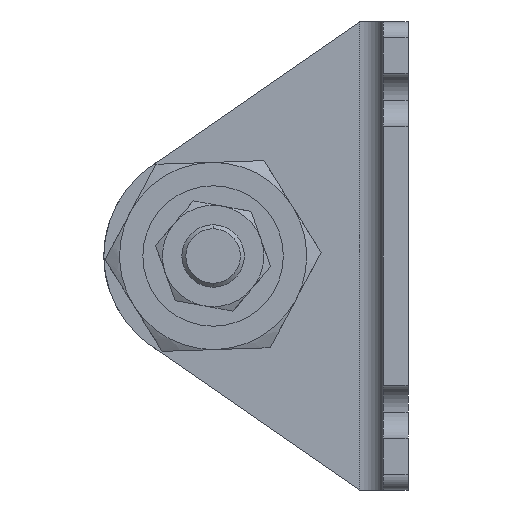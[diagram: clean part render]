
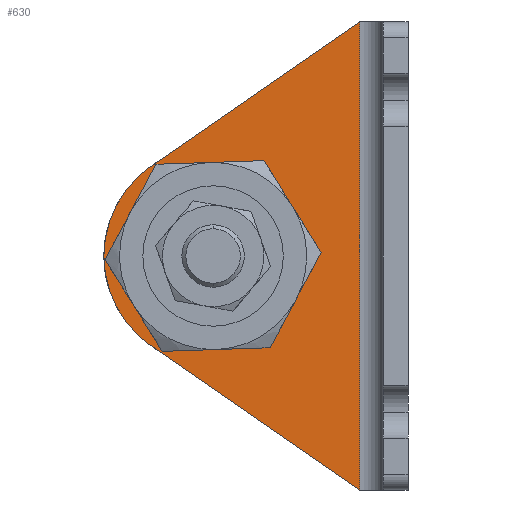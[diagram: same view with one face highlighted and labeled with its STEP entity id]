
A CAD part, left-side view. The second image highlights one B-rep face of the part: STEP entity #630.
In plain terms, the highlighted planar face has unit normal (-1, 0, 0) as drawn and (1, 0, 0) by its records, which use the part's own axes.
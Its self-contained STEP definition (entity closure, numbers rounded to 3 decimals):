
#217 = DIRECTION ( 'NONE',  ( 0., 1., 0. ) ) ;
#242 = DIRECTION ( 'NONE',  ( 0., 1., 0. ) ) ;
#265 = CARTESIAN_POINT ( 'NONE',  ( 3.2, 6.2, 0. ) ) ;
#276 = EDGE_CURVE ( 'NONE', #3450, #1136, #3930, .T. ) ;
#320 = DIRECTION ( 'NONE',  ( 0., 1., 0. ) ) ;
#402 = EDGE_CURVE ( 'NONE', #2729, #3450, #1112, .T. ) ;
#436 = CIRCLE ( 'NONE', #1285, 9.5 ) ;
#440 = VERTEX_POINT ( 'NONE', #1392 ) ;
#467 = DIRECTION ( 'NONE',  ( 1., 0., 0. ) ) ;
#533 = CARTESIAN_POINT ( 'NONE',  ( 3.2, 25., -30. ) ) ;
#622 = CARTESIAN_POINT ( 'NONE',  ( 3.2, 32.956, -18.481 ) ) ;
#630 = ADVANCED_FACE ( 'NONE', ( #3136, #1156 ), #1712, .T. ) ;
#804 = AXIS2_PLACEMENT_3D ( 'NONE', #2245, #467, #949 ) ;
#896 = CARTESIAN_POINT ( 'NONE',  ( 3.2, 25., -30. ) ) ;
#911 = ORIENTED_EDGE ( 'NONE', *, *, #2439, .T. ) ;
#943 = AXIS2_PLACEMENT_3D ( 'NONE', #3488, #2947, #320 ) ;
#949 = DIRECTION ( 'NONE',  ( 0., 1., 0. ) ) ;
#1058 = LINE ( 'NONE', #1329, #1472 ) ;
#1092 = DIRECTION ( 'NONE',  ( 1., 0., 0. ) ) ;
#1112 = LINE ( 'NONE', #3500, #2055 ) ;
#1119 = EDGE_CURVE ( 'NONE', #1275, #2729, #3497, .T. ) ;
#1136 = VERTEX_POINT ( 'NONE', #1587 ) ;
#1156 = FACE_OUTER_BOUND ( 'NONE', #3246, .T. ) ;
#1275 = VERTEX_POINT ( 'NONE', #265 ) ;
#1285 = AXIS2_PLACEMENT_3D ( 'NONE', #4086, #3678, #217 ) ;
#1329 = CARTESIAN_POINT ( 'NONE',  ( 3.2, 32.226, -17.976 ) ) ;
#1351 = ORIENTED_EDGE ( 'NONE', *, *, #276, .T. ) ;
#1392 = CARTESIAN_POINT ( 'NONE',  ( 3.2, 34.5, -30. ) ) ;
#1434 = VECTOR ( 'NONE', #1991, 1000. ) ;
#1472 = VECTOR ( 'NONE', #3741, 1000. ) ;
#1587 = CARTESIAN_POINT ( 'NONE',  ( 3.2, 39., -30. ) ) ;
#1591 = CARTESIAN_POINT ( 'NONE',  ( 3.2, 15.5, -30. ) ) ;
#1664 = DIRECTION ( 'NONE',  ( 0., 0.823, 0.568 ) ) ;
#1705 = EDGE_CURVE ( 'NONE', #440, #4244, #436, .T. ) ;
#1712 = PLANE ( 'NONE',  #804 ) ;
#1892 = CARTESIAN_POINT ( 'NONE',  ( 3.2, 6.2, -60. ) ) ;
#1900 = EDGE_CURVE ( 'NONE', #4244, #440, #2813, .T. ) ;
#1991 = DIRECTION ( 'NONE',  ( 0., 0., -1. ) ) ;
#2055 = VECTOR ( 'NONE', #1664, 1000. ) ;
#2056 = AXIS2_PLACEMENT_3D ( 'NONE', #533, #1092, #242 ) ;
#2245 = CARTESIAN_POINT ( 'NONE',  ( 3.2, 3.2, -60. ) ) ;
#2259 = DIRECTION ( 'NONE',  ( 1., 0., 0. ) ) ;
#2439 = EDGE_CURVE ( 'NONE', #1136, #4030, #2468, .T. ) ;
#2451 = ORIENTED_EDGE ( 'NONE', *, *, #1900, .F. ) ;
#2468 = CIRCLE ( 'NONE', #943, 14. ) ;
#2497 = CARTESIAN_POINT ( 'NONE',  ( 3.2, 32.956, -41.519 ) ) ;
#2630 = ORIENTED_EDGE ( 'NONE', *, *, #1119, .T. ) ;
#2729 = VERTEX_POINT ( 'NONE', #1892 ) ;
#2813 = CIRCLE ( 'NONE', #2056, 9.5 ) ;
#2947 = DIRECTION ( 'NONE',  ( 1., 0., 0. ) ) ;
#3136 = FACE_BOUND ( 'NONE', #3940, .T. ) ;
#3246 = EDGE_LOOP ( 'NONE', ( #4296, #1351, #911, #4169, #2630 ) ) ;
#3450 = VERTEX_POINT ( 'NONE', #2497 ) ;
#3488 = CARTESIAN_POINT ( 'NONE',  ( 3.2, 25., -30. ) ) ;
#3497 = LINE ( 'NONE', #4209, #1434 ) ;
#3500 = CARTESIAN_POINT ( 'NONE',  ( 3.2, 4.169, -61.403 ) ) ;
#3508 = EDGE_CURVE ( 'NONE', #1275, #4030, #1058, .T. ) ;
#3521 = ORIENTED_EDGE ( 'NONE', *, *, #1705, .F. ) ;
#3562 = DIRECTION ( 'NONE',  ( 0., 1., 0. ) ) ;
#3678 = DIRECTION ( 'NONE',  ( 1., 0., 0. ) ) ;
#3741 = DIRECTION ( 'NONE',  ( 0., 0.823, -0.568 ) ) ;
#3754 = AXIS2_PLACEMENT_3D ( 'NONE', #896, #2259, #3562 ) ;
#3930 = CIRCLE ( 'NONE', #3754, 14. ) ;
#3940 = EDGE_LOOP ( 'NONE', ( #3521, #2451 ) ) ;
#4030 = VERTEX_POINT ( 'NONE', #622 ) ;
#4086 = CARTESIAN_POINT ( 'NONE',  ( 3.2, 25., -30. ) ) ;
#4169 = ORIENTED_EDGE ( 'NONE', *, *, #3508, .F. ) ;
#4209 = CARTESIAN_POINT ( 'NONE',  ( 3.2, 6.2, -60. ) ) ;
#4244 = VERTEX_POINT ( 'NONE', #1591 ) ;
#4296 = ORIENTED_EDGE ( 'NONE', *, *, #402, .T. ) ;
